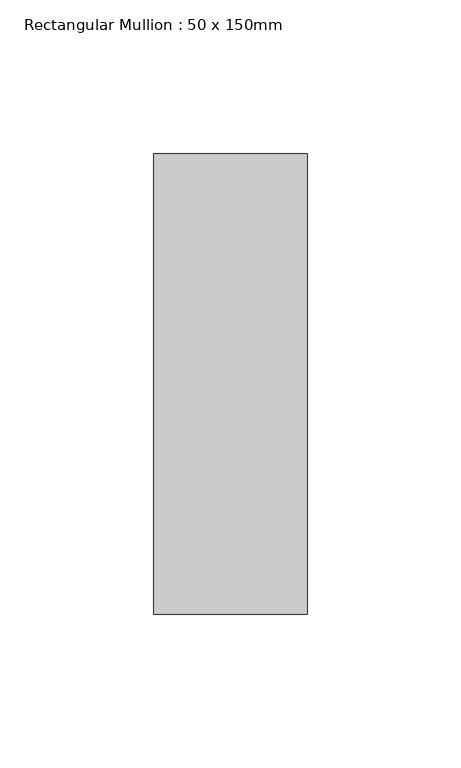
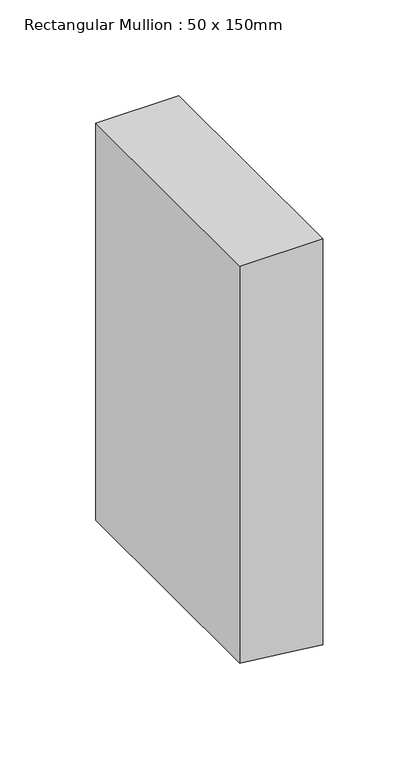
"""IFC4 building model written with IfcOpenShell, lengths in millimetres: member geometry, Rectangular Mullion : 50 x 150mm."""

from ifc_helpers import new_model, si_unit, frame, origin, place, context, project, spatial, polyline, outline, extrude, source, transform, mapped, element, save


def rectangular_mullion_50_x_150mm_926ca4df(model_context):
    return source(origin(), model_context, "Body", "SweptSolid", [
        extrude(outline(polyline([(0.0, 25.0), (0.0, -25.0), (-252.7833994, -25.0), (-256.2635586, 5.6423937), (-258.4620668, 25.0), (0.0, 25.0)])), frame((0.0, -75.0, 0.0), z_axis=(0.0, 1.0, 0.0), x_axis=(0.0, 0.0, 1.0)), (0.0, 0.0, 1.0), 150.0),
    ])


if __name__ == "__main__":
    model = new_model("IFC4")
    model_context = context("Model", 3, world=origin())
    ifc_project = project(units=[si_unit("LENGTHUNIT", "METRE", prefix="MILLI")], contexts=[model_context])
    site = spatial("IfcSite", under=ifc_project)
    building = spatial("IfcBuilding", under=site)
    placement = place(None, origin())
    rectangular_mullion_50_x_150mm_shape = rectangular_mullion_50_x_150mm_926ca4df(model_context)
    element("IfcMember", 1, ObjectType="Rectangular Mullion : 50 x 150mm", at=placement, inside=building, context=model_context, shape_type="MappedRepresentation", body=[
        mapped(rectangular_mullion_50_x_150mm_shape, transform((0.0, 0.0, 0.0), x_axis=(1.0, 0.0, 0.0), y_axis=(0.0, 1.0, 0.0), z_axis=(0.0, 0.0, 1.0))),
    ])
    save(model, "model.ifc")
